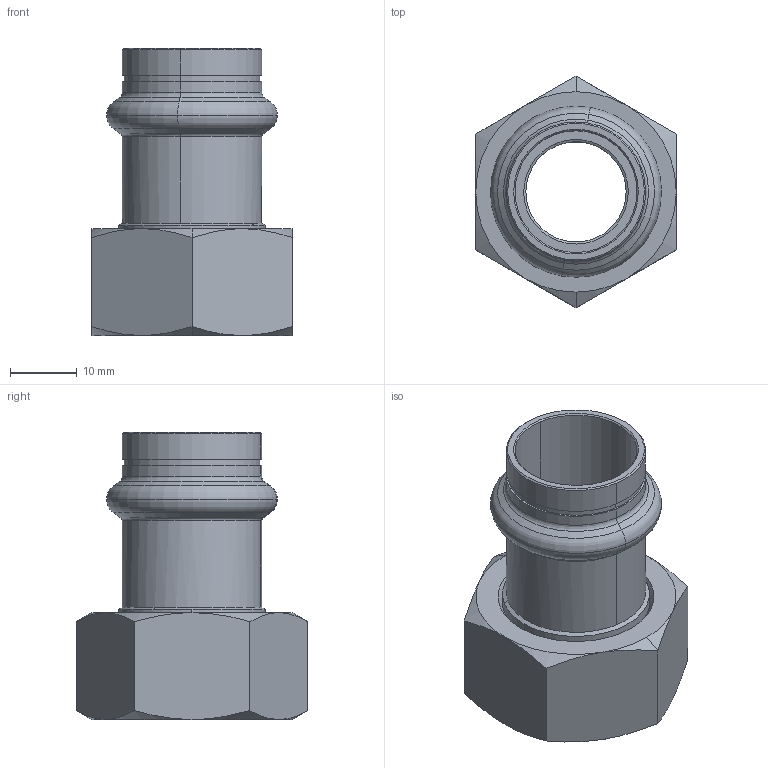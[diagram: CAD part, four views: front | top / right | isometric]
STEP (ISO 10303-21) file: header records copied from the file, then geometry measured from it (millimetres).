
FILE_DESCRIPTION(('CoCreate Modeling STEP Export'),'2;1');
FILE_NAME('8359GVW1834.stp','2013-03-05T13:40:42',(''),(''),'CoCreate Modeling STEP processor for AP214 (Solid Model)','CoCreate Modeling 17.00A 17-Jun-2010 (C) Parametric Technology GmbH','');
FILE_SCHEMA(('AUTOMOTIVE_DESIGN { 1 0 10303 214 1 1 1 1 }'));
Length unit declared in the file: millimetre
Products named in the file (3): MOER; wartelpuntstuk_C-pr_18x3.1; 8359GVW1834
Assembly tree (2 placements, depth 2):
  8359GVW1834
    wartelpuntstuk_C-pr_18x3.1
    MOER
Bounding box: 30 x 34.64 x 42.96 mm (x, y, z)
Volume: 10081.8 mm3; surface area: 8410.5 mm2
Topology: 2 solids, 2 shells, 92 faces, 205 edges, 121 vertices
Faces by surface type: cone 38, cylinder 28, plane 14, torus 12
Entity records: 2939 total; most frequent: CARTESIAN_POINT 1203, ORIENTED_EDGE 410, DIRECTION 256, EDGE_CURVE 205, VERTEX_POINT 121, EDGE_LOOP 100, AXIS2_PLACEMENT_3D 98, FACE_OUTER_BOUND 92
